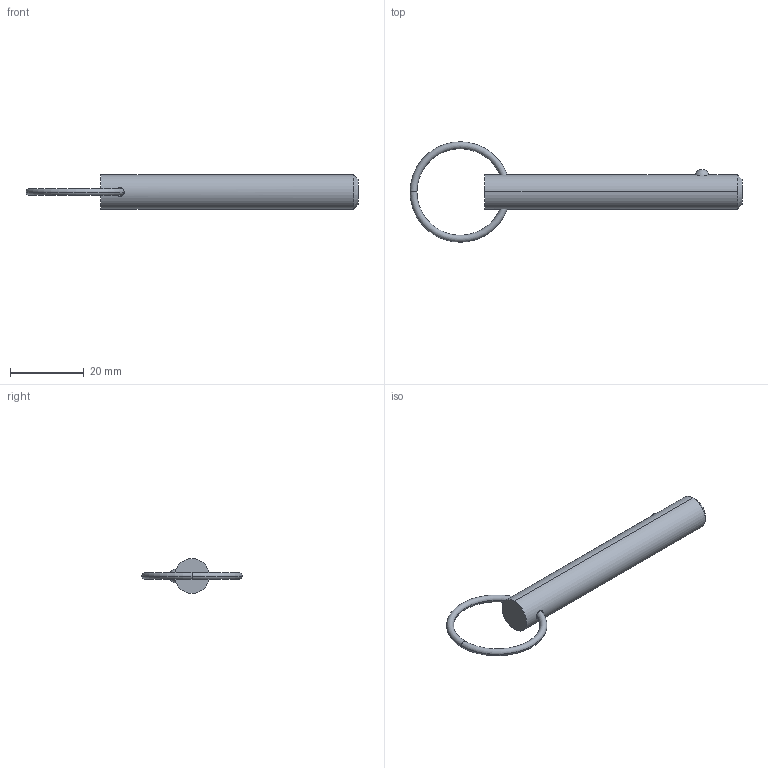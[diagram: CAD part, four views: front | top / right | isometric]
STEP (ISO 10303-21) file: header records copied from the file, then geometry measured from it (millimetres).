
FILE_DESCRIPTION (( 'STEP AP203' ), '1' );
FILE_NAME ('33012.W3720.step', '2024-11-01T14:09:40', ( '' ), ( '' ), 'SwSTEP 2.0', 'SolidWorks 2019', '' );
FILE_SCHEMA (( 'CONFIG_CONTROL_DESIGN' ));
Length unit declared in the file: millimetre
Products named in the file (3): Part2_33012.W3720; Part1_33012.W3720; 33012.W3720
Assembly tree (2 placements, depth 2):
  33012.W3720
    Part1_33012.W3720
    Part2_33012.W3720
Bounding box: 90.19 x 27.28 x 9.4 mm (x, y, z)
Volume: 5018.8 mm3; surface area: 2719.2 mm2
Topology: 2 solids, 2 shells, 16 faces, 31 edges, 18 vertices
Faces by surface type: torus 8, sphere 2, cone 2, cylinder 2, plane 2
Entity records: 849 total; most frequent: CARTESIAN_POINT 206, DIRECTION 88, ORIENTED_EDGE 62, AXIS2_PLACEMENT_3D 42, EDGE_CURVE 31, PERSON_AND_ORGANIZATION 26, CIRCLE 21, LOCAL_TIME 19
